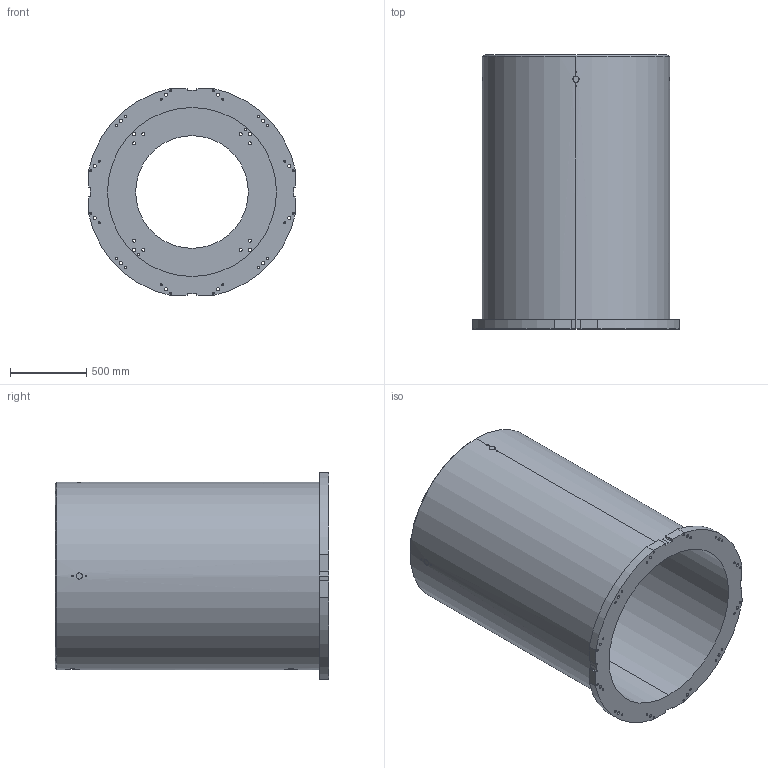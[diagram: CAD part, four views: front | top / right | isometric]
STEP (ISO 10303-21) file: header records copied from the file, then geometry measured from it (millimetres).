
FILE_DESCRIPTION (( 'STEP AP214' ), '1' );
FILE_NAME ('T-1800.STEP', '2024-01-24T12:56:06', ( '' ), ( '' ), 'SwSTEP 2.0', 'SolidWorks 2022', '' );
FILE_SCHEMA (( 'AUTOMOTIVE_DESIGN' ));
Length unit declared in the file: millimetre
Products named in the file (1): T-1800
Bounding box: 1360 x 1800 x 1360 mm (x, y, z)
Volume: 445020313.9 mm3; surface area: 15461491.4 mm2
Topology: 1 solids, 1 shells, 235 faces, 661 edges, 440 vertices
Faces by surface type: cylinder 181, plane 28, bspline 24, cone 2
Entity records: 13571 total; most frequent: CARTESIAN_POINT 6260, ORIENTED_EDGE 1322, DIRECTION 1177, EDGE_CURVE 661, AXIS2_PLACEMENT_3D 466, VERTEX_POINT 440, EDGE_LOOP 349, CIRCLE 254
